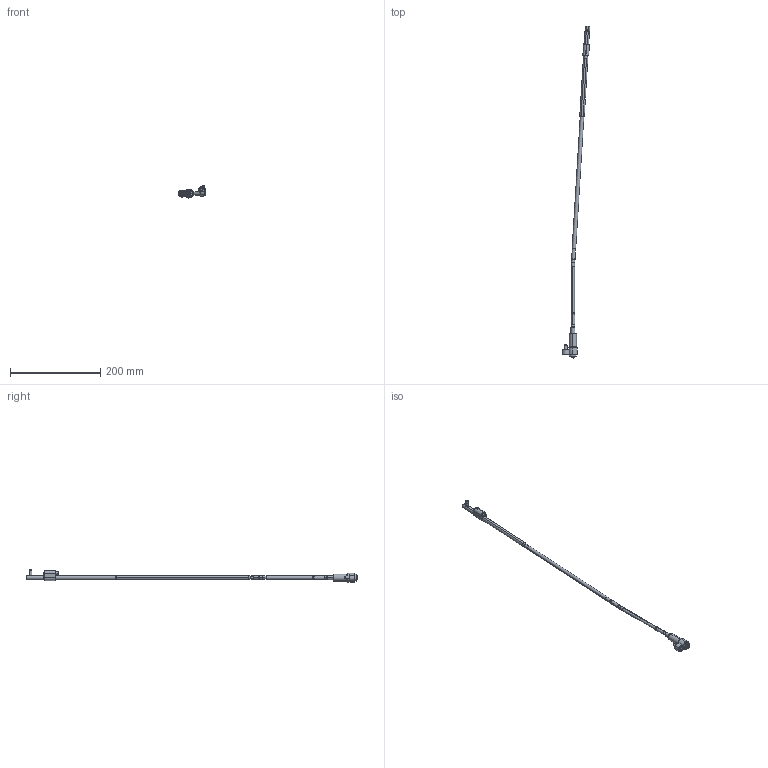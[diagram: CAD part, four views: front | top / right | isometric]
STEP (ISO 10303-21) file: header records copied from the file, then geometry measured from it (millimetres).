
FILE_DESCRIPTION (( 'STEP AP214' ), '1' );
FILE_NAME ('WL080100L-INJ 3,5°.STEP', '2021-03-19T15:26:24', ( '' ), ( '' ), 'SwSTEP 2.0', 'SolidWorks 2019', '' );
FILE_SCHEMA (( 'AUTOMOTIVE_DESIGN' ));
Length unit declared in the file: millimetre
Products named in the file (17): Web-WP08-1; WL080100-D; WL080100-E; WL080100L-INJ 3,5°; 3IMAN4X2-150_con sello; WL080100-B1_WL0800FF-1; 9DR2206-TOR; Web-WL08-F01; Web-WL08-A3; Web-WL08-A1; WL080100-B_WL0800FF; 1DIN912616_DIN 912 M6 x 16 --- 16C; Web-WL08-A2; Web-WL08XX-A7_OFF-WL080100-3,5; Web-WL08-F00.SLDPRT; WL080100-C; 1DIN912545_DIN 912 M5 x 50 --- 50C
Assembly tree (16 placements, depth 3):
  WL080100L-INJ 3,5°
    Web-WP08-1
    Web-WL08XX-A7_OFF-WL080100-3,5
    Web-WL08-A3
    Web-WL08-A2
    Web-WL08-A1
    WL080100-D
    WL080100-C
    WL080100-B_WL0800FF
      WL080100-B1_WL0800FF-1
      3IMAN4X2-150_con sello
    WL080100-E
    9DR2206-TOR
    Web-WL08-F00.SLDPRT
      Web-WL08-F01
      1DIN912545_DIN 912 M5 x 50 --- 50C
      1DIN912616_DIN 912 M6 x 16 --- 16C
Bounding box: 61.18 x 736.3 x 26.9 mm (x, y, z)
Volume: 57313.7 mm3; surface area: 33636.1 mm2
Topology: 15 solids, 15 shells, 424 faces, 888 edges, 516 vertices
Faces by surface type: plane 132, cylinder 128, cone 116, torus 48
Entity records: 13492 total; most frequent: DIRECTION 2218, CARTESIAN_POINT 2045, ORIENTED_EDGE 1756, AXIS2_PLACEMENT_3D 921, EDGE_CURVE 878, VERTEX_POINT 516, CIRCLE 476, EDGE_LOOP 468
